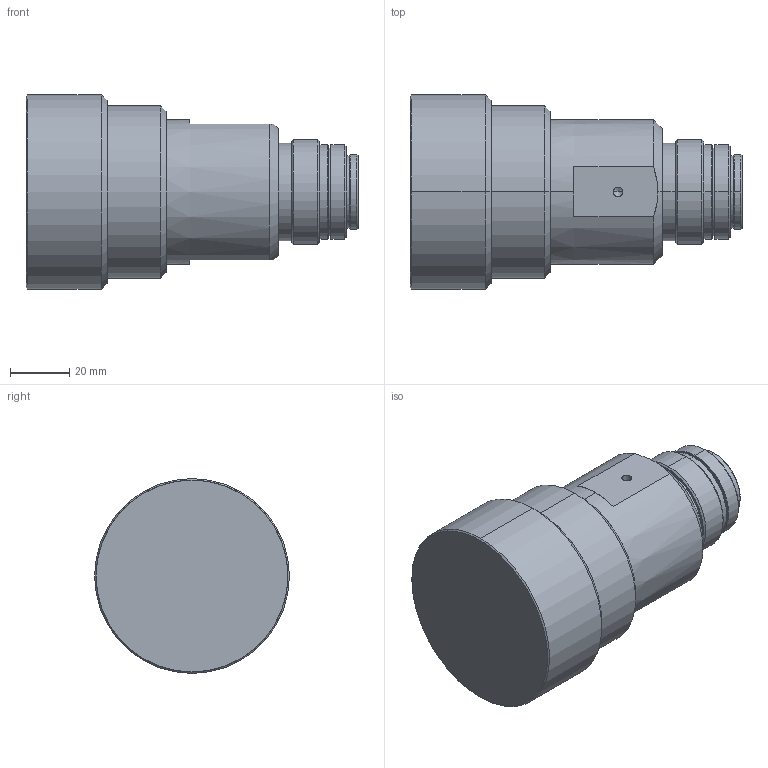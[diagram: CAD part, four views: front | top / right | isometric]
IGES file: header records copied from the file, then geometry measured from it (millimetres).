
Start section: SolidWorks IGES file using analytic representation for surfaces
Global section: file name: C:\Users\miura_vst\Desktop\3D\HP提出用過去の分確認\VS-TCM022-150_S\VS-TCM022-150_S.IGS; native system: SolidWorks 2015; preprocessor: SolidWorks 2015; author: miura_vst; date: 150828.145843; units: millimetre
Bounding box: 112.5 x 66 x 66 mm (x, y, z)
Surface area: 25119.9 mm2 (no closed solid volume)
Topology: 0 solids, 0 shells, 91 faces, 1820 edges, 1816 vertices
Faces by surface type: revolution 72, bspline 19
